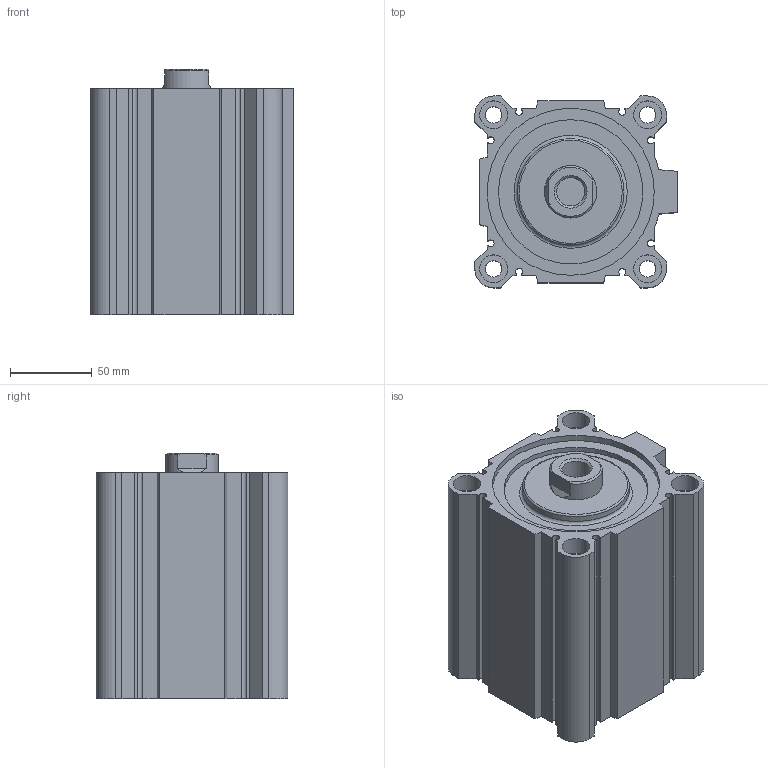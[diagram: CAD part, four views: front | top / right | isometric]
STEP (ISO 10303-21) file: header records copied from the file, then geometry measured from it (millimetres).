
FILE_DESCRIPTION( ( 'STEP AP214' ), '1' );
FILE_NAME( 'C:/Users/emc02044/Desktop/SQN SQN big size/SQN100X75-S.stp', '2026-07-29T04:05:00', ( 'License CC BY-ND 4.0' ), ( 'CADENAS' ), ' ', 'PARTsolutions', ' ' );
FILE_SCHEMA( ( 'AUTOMOTIVE_DESIGN { 1 0 10303 214 1 1 1 1 }' ) );
Length unit declared in the file: millimetre
Products named in the file (3): SQN100X75-S; _SQ100X75-S(0) ()_body; _SQ100X75-S(rod-0)
Assembly tree (2 placements, depth 2):
  SQN100X75-S
    _SQ100X75-S(0) ()_body
    _SQ100X75-S(rod-0)
Bounding box: 123.5 x 117 x 150 mm (x, y, z)
Volume: 1005656.5 mm3; surface area: 211698 mm2
Topology: 2 solids, 2 shells, 153 faces, 356 edges, 235 vertices
Faces by surface type: plane 96, cylinder 47, cone 7, torus 3
Full cylindrical faces by diameter (mm): 10.106 x8, 10.9 x4, 14.95 x2, 17 x8, 17.294 x1, 32 x2, 65 x2, 88.1 x2, 100 x2, 102 x2
Entity records: 5436 total; most frequent: DIRECTION 728, CARTESIAN_POINT 714, ORIENTED_EDGE 626, EDGE_CURVE 313, AXIS2_PLACEMENT_3D 263, VERTEX_POINT 233, EDGE_LOOP 230, LINE 202
